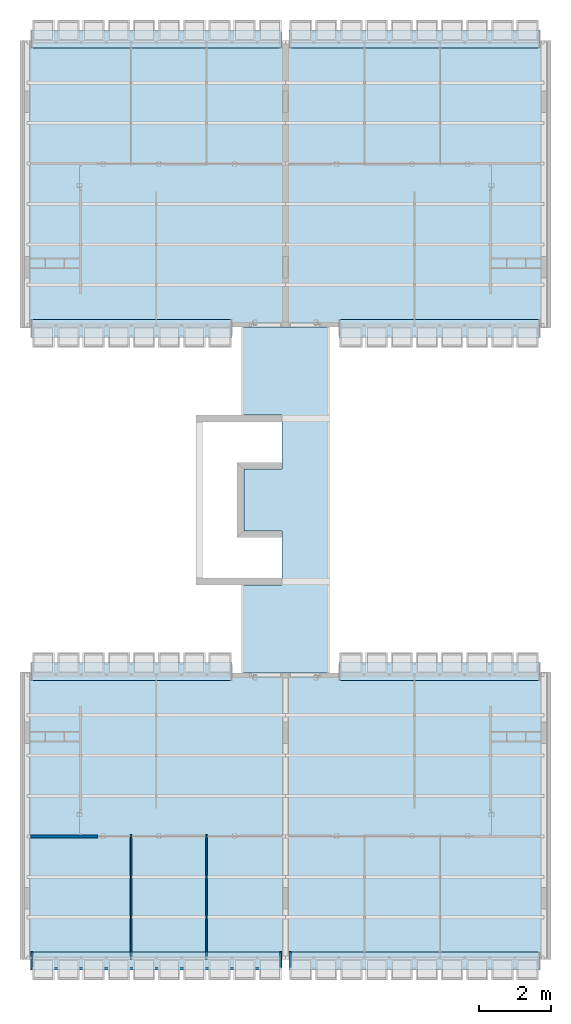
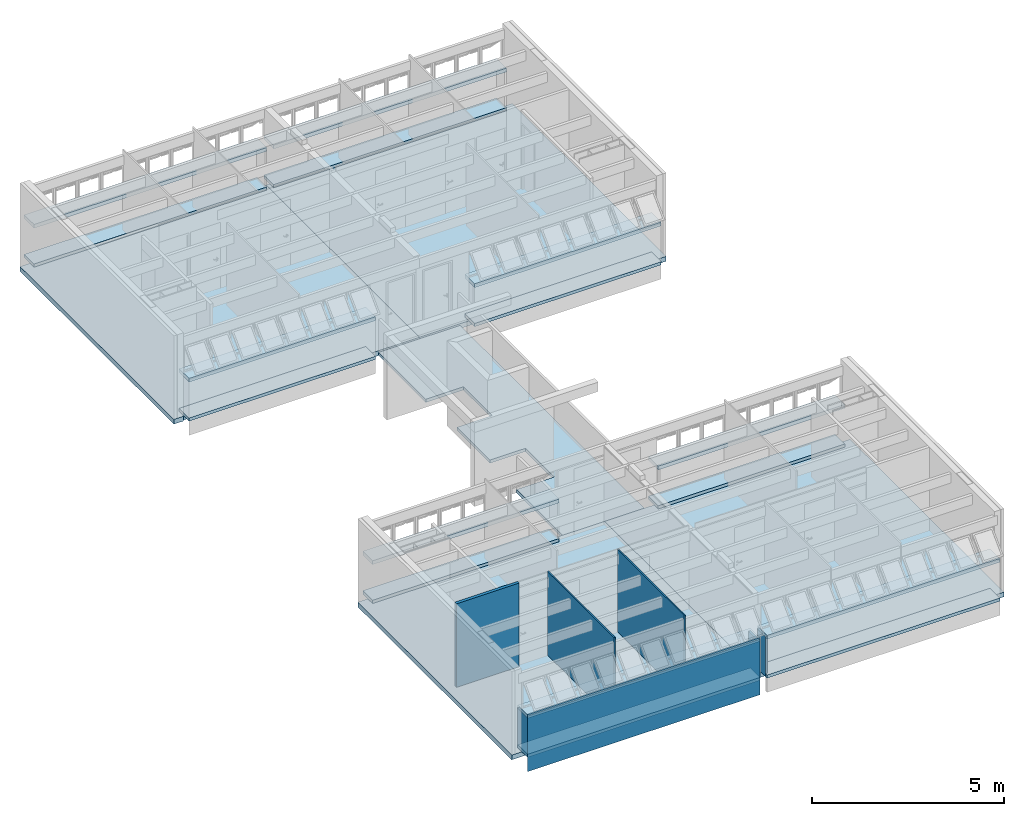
# One storey, part 4 of 37: 21 slabs, 7 walls.
"""IFC2X3 building model written with IfcOpenShell, lengths in millimetres."""

from ifc_helpers import new_model, entity, si_unit, converted_unit, derived_unit, money_unit, direction, frame, origin_with_axes, place, context, subcontext, project, spatial, polyline, outline, extrude, material, layer, layer_set, layer_usage, type_object, element, save


model = new_model("IFC2X3")

# Units and contexts
model_context = context("Model", 3, precision=0.01, world=origin_with_axes(), true_north=direction((0.0, 1.0)))
body_context = subcontext(model_context, "Body", "Model", "MODEL_VIEW")
ifc_project = project(units=[si_unit("LENGTHUNIT", "METRE", prefix="MILLI"), si_unit("AREAUNIT", "SQUARE_METRE"), si_unit("VOLUMEUNIT", "CUBIC_METRE"), converted_unit("PLANEANGLEUNIT", "DEGREE", entity("IfcPlaneAngleMeasure", 0.0174532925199), si_unit("PLANEANGLEUNIT", "RADIAN"), dimensions=[0, 0, 0, 0, 0, 0, 0]), money_unit("USD"), converted_unit("TIMEUNIT", "Year", entity("IfcTimeMeasure", 31556926.0), si_unit("TIMEUNIT", "SECOND"), dimensions=[0, 0, 1, 0, 0, 0, 0]), si_unit("MASSUNIT", "GRAM", prefix="KILO"), si_unit("THERMODYNAMICTEMPERATUREUNIT", "DEGREE_CELSIUS"), si_unit("LUMINOUSINTENSITYUNIT", "LUMEN"), si_unit("ENERGYUNIT", "JOULE", prefix="MEGA"), derived_unit("THERMALCONDUCTANCEUNIT", [(si_unit("POWERUNIT", "WATT"), 1), (si_unit("LENGTHUNIT", "METRE"), -1), (si_unit("THERMODYNAMICTEMPERATUREUNIT", "KELVIN"), -1)]), derived_unit("SPECIFICHEATCAPACITYUNIT", [(si_unit("ENERGYUNIT", "JOULE"), 1), (si_unit("MASSUNIT", "GRAM", prefix="KILO"), -1), (si_unit("THERMODYNAMICTEMPERATUREUNIT", "KELVIN"), -1)]), derived_unit("MASSDENSITYUNIT", [(si_unit("MASSUNIT", "GRAM", prefix="KILO"), 1), (si_unit("VOLUMEUNIT", "CUBIC_METRE"), -1)])], contexts=[model_context])

# Site, building, storey
site_placement = place(None, origin_with_axes())
site = spatial("IfcSite", under=ifc_project, at=site_placement, Name="Local", CompositionType="ELEMENT")
building_placement = place(site_placement, origin_with_axes())
building = spatial("IfcBuilding", under=site, at=building_placement, Name="Construção", CompositionType="ELEMENT")
storey_placement = place(building_placement, frame((0.0, 0.0, 5300.0), z_axis=(0.0, 0.0, 1.0), x_axis=(1.0, 0.0, 0.0)))
storey = spatial("IfcBuildingStorey", under=building, at=storey_placement, Name="Terceiro Pavimento", CompositionType="ELEMENT", Elevation=5300.0)

# Slabs
ifc_material_1 = material(Name="Concreto Armado Moldado in Loco - Estrutural")
ifc_layer_1 = layer(ifc_material_1, 150.0, ventilated="UNKNOWN")
ifc_layer_set_1 = layer_set([ifc_layer_1], Name="Concreto Armado Moldado in Loco - Estrutural 150")
ifc_layer_usage_1 = layer_usage(ifc_layer_set_1, "AXIS3", "NEGATIVE", 150.0)
slab_type_1 = type_object("IfcSlabType", Name="Concreto Armado Moldado in Loco - Estrutural 150", PredefinedType="FLOOR")
slab_1_placement = place(storey_placement, frame((0.0, 300.0, 0.0), z_axis=(0.0, 0.0, 1.0), x_axis=(1.0, 0.0, 0.0)))
element("IfcSlab", 1, at=slab_1_placement, inside=storey, type_object=slab_type_1, material=ifc_layer_usage_1, Name="APTO9-LAJE-000", PredefinedType="FLOOR", context=body_context, shape_type="SweptSolid", body=[
    extrude(outline(polyline([(0.0, 0.0), (299.999978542, 0.0), (7385.0, 0.0), (7385.0, 7964.99999866), (6160.00008404, 7964.99999866), (5900.0, 7965.0), (290.0, 7965.0), (289.999999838, 8000.00000006), (0.0, 7999.99999872), (0.0, 0.0)])), frame((0.0, 0.0, -150.0), z_axis=(0.0, 0.0, 1.0), x_axis=(1.0, 0.0, 0.0)), (0.0, 0.0, 1.0), 150.0),
])
ifc_layer_usage_2 = layer_usage(ifc_layer_set_1, "AXIS3", "NEGATIVE", 150.0)
slab_2_placement = place(storey_placement, frame((14770.0, 300.0, 0.0), z_axis=(0.0, 0.0, 1.0), x_axis=(1.0, 0.0, 0.0)))
element("IfcSlab", 2, at=slab_2_placement, inside=storey, type_object=slab_type_1, material=ifc_layer_usage_2, Name="APTO10-LAJE-000", PredefinedType="FLOOR", context=body_context, shape_type="SweptSolid", body=[
    extrude(outline(polyline([(0.0, 0.0), (0.0, 7999.99999872), (-289.999999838, 8000.00000006), (-290.0, 7965.0), (-5900.0, 7965.0), (-6160.00008404, 7964.99999866), (-7385.0, 7964.99999866), (-7385.0, 0.0), (-299.999978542, 0.0), (0.0, 0.0)])), frame((0.0, 0.0, -150.0), z_axis=(0.0, 0.0, 1.0), x_axis=(1.0, 0.0, 0.0)), (0.0, 0.0, 1.0), 150.0),
])
ifc_layer_usage_3 = layer_usage(ifc_layer_set_1, "AXIS3", "NEGATIVE", 150.0)
slab_3_placement = place(storey_placement, frame((0.0, 25860.0, 0.0), z_axis=(0.0, 0.0, 1.0), x_axis=(1.0, 0.0, 0.0)))
element("IfcSlab", 3, at=slab_3_placement, inside=storey, type_object=slab_type_1, material=ifc_layer_usage_3, Name="APTO11-LAJE-000", PredefinedType="FLOOR", context=body_context, shape_type="SweptSolid", body=[
    extrude(outline(polyline([(0.0, 0.0), (0.0, -7999.99999872), (289.999999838, -8000.00000006), (290.0, -7965.0), (5900.0, -7965.0), (6160.00008404, -7964.99999866), (7385.0, -7964.99999866), (7385.0, 0.0), (299.999978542, 0.0), (0.0, 0.0)])), frame((0.0, 0.0, -150.0), z_axis=(0.0, 0.0, 1.0), x_axis=(1.0, 0.0, 0.0)), (0.0, 0.0, 1.0), 150.0),
])
ifc_layer_usage_4 = layer_usage(ifc_layer_set_1, "AXIS3", "NEGATIVE", 150.0)
slab_4_placement = place(storey_placement, frame((14770.0, 25860.0, 0.0), z_axis=(0.0, 0.0, 1.0), x_axis=(1.0, 0.0, 0.0)))
element("IfcSlab", 4, at=slab_4_placement, inside=storey, type_object=slab_type_1, material=ifc_layer_usage_4, Name="APTO12-LAJE-000", PredefinedType="FLOOR", context=body_context, shape_type="SweptSolid", body=[
    extrude(outline(polyline([(0.0, 0.0), (-299.999978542, 0.0), (-7385.0, 0.0), (-7385.0, -7964.99999866), (-6160.00008404, -7964.99999866), (-5900.0, -7965.0), (-290.0, -7965.0), (-289.999999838, -8000.00000006), (0.0, -7999.99999872), (0.0, 0.0)])), frame((0.0, 0.0, -150.0), z_axis=(0.0, 0.0, 1.0), x_axis=(1.0, 0.0, 0.0)), (0.0, 0.0, 1.0), 150.0),
])
ifc_layer_2 = layer(ifc_material_1, 120.0, ventilated="UNKNOWN")
ifc_layer_set_2 = layer_set([ifc_layer_2], Name="Concreto Armado Moldado in Loco - Estrutural 120")
ifc_layer_usage_5 = layer_usage(ifc_layer_set_2, "AXIS3", "NEGATIVE", 120.0)
slab_type_2 = type_object("IfcSlabType", Name="Concreto Armado Moldado in Loco - Estrutural 120", PredefinedType="FLOOR")
slab_5_placement = place(storey_placement, frame((300.0, 8564.99999866, 1355.0), z_axis=(0.0, 0.0, 1.0), x_axis=(1.0, 0.0, 0.0)))
element("IfcSlab", 5, at=slab_5_placement, inside=storey, type_object=slab_type_2, material=ifc_layer_usage_5, Name="APTO9-LAJE-003", PredefinedType="FLOOR", context=body_context, shape_type="SweptSolid", body=[
    extrude(outline(polyline([(0.0, 0.0), (0.0, -510.0), (5600.0, -510.0), (5600.0, 0.0), (0.0, 0.0)])), frame((0.0, 0.0, -120.0), z_axis=(0.0, 0.0, 1.0), x_axis=(1.0, 0.0, 0.0)), (0.0, 0.0, 1.0), 120.0),
])
ifc_layer_usage_6 = layer_usage(ifc_layer_set_2, "AXIS3", "NEGATIVE", 120.0)
slab_6_placement = place(storey_placement, frame((300.0, 0.0, 1355.0), z_axis=(0.0, 0.0, 1.0), x_axis=(1.0, 0.0, 0.0)))
element("IfcSlab", 6, at=slab_6_placement, inside=storey, type_object=slab_type_2, material=ifc_layer_usage_6, Name="APTO9-LAJE-002", PredefinedType="FLOOR", context=body_context, shape_type="SweptSolid", body=[
    extrude(outline(polyline([(0.0, 0.0), (6980.0, 0.0), (6980.0, 510.0), (0.0, 510.0), (0.0, 0.0)])), frame((0.0, 0.0, -120.0), z_axis=(0.0, 0.0, 1.0), x_axis=(1.0, 0.0, 0.0)), (0.0, 0.0, 1.0), 120.0),
])
ifc_layer_usage_7 = layer_usage(ifc_layer_set_2, "AXIS3", "NEGATIVE", 120.0)
slab_7_placement = place(storey_placement, frame((14470.0, 8564.99999866, 1355.0), z_axis=(0.0, 0.0, 1.0), x_axis=(1.0, 0.0, 0.0)))
element("IfcSlab", 7, at=slab_7_placement, inside=storey, type_object=slab_type_2, material=ifc_layer_usage_7, Name="APTO10-LAJE-003", PredefinedType="FLOOR", context=body_context, shape_type="SweptSolid", body=[
    extrude(outline(polyline([(0.0, 0.0), (-5600.0, 0.0), (-5600.0, -510.0), (0.0, -510.0), (0.0, 0.0)])), frame((0.0, 0.0, -120.0), z_axis=(0.0, 0.0, 1.0), x_axis=(1.0, 0.0, 0.0)), (0.0, 0.0, 1.0), 120.0),
])
ifc_layer_usage_8 = layer_usage(ifc_layer_set_2, "AXIS3", "NEGATIVE", 120.0)
slab_8_placement = place(storey_placement, frame((14470.0, 0.0, 1355.0), z_axis=(0.0, 0.0, 1.0), x_axis=(1.0, 0.0, 0.0)))
element("IfcSlab", 8, at=slab_8_placement, inside=storey, type_object=slab_type_2, material=ifc_layer_usage_8, Name="APTO10-LAJE-002", PredefinedType="FLOOR", context=body_context, shape_type="SweptSolid", body=[
    extrude(outline(polyline([(0.0, 0.0), (0.0, 510.0), (-6980.0, 510.0), (-6980.0, 0.0), (0.0, 0.0)])), frame((0.0, 0.0, -120.0), z_axis=(0.0, 0.0, 1.0), x_axis=(1.0, 0.0, 0.0)), (0.0, 0.0, 1.0), 120.0),
])
ifc_layer_usage_9 = layer_usage(ifc_layer_set_2, "AXIS3", "NEGATIVE", 120.0)
slab_9_placement = place(storey_placement, frame((300.0, 17595.0000013, 1355.0), z_axis=(0.0, 0.0, 1.0), x_axis=(1.0, 0.0, 0.0)))
element("IfcSlab", 9, at=slab_9_placement, inside=storey, type_object=slab_type_2, material=ifc_layer_usage_9, Name="APTO11-LAJE-003", PredefinedType="FLOOR", context=body_context, shape_type="SweptSolid", body=[
    extrude(outline(polyline([(0.0, 0.0), (5600.0, 0.0), (5600.0, 510.0), (0.0, 510.0), (0.0, 0.0)])), frame((0.0, 0.0, -120.0), z_axis=(0.0, 0.0, 1.0), x_axis=(1.0, 0.0, 0.0)), (0.0, 0.0, 1.0), 120.0),
])
ifc_layer_usage_10 = layer_usage(ifc_layer_set_2, "AXIS3", "NEGATIVE", 120.0)
slab_10_placement = place(storey_placement, frame((300.0, 26160.0, 1355.0), z_axis=(0.0, 0.0, 1.0), x_axis=(1.0, 0.0, 0.0)))
element("IfcSlab", 10, at=slab_10_placement, inside=storey, type_object=slab_type_2, material=ifc_layer_usage_10, Name="APTO11-LAJE-002", PredefinedType="FLOOR", context=body_context, shape_type="SweptSolid", body=[
    extrude(outline(polyline([(0.0, 0.0), (0.0, -510.0), (6980.0, -510.0), (6980.0, 0.0), (0.0, 0.0)])), frame((0.0, 0.0, -120.0), z_axis=(0.0, 0.0, 1.0), x_axis=(1.0, 0.0, 0.0)), (0.0, 0.0, 1.0), 120.0),
])
ifc_layer_usage_11 = layer_usage(ifc_layer_set_2, "AXIS3", "NEGATIVE", 120.0)
slab_11_placement = place(storey_placement, frame((14470.0, 17595.0000013, 1355.0), z_axis=(0.0, 0.0, 1.0), x_axis=(1.0, 0.0, 0.0)))
element("IfcSlab", 11, at=slab_11_placement, inside=storey, type_object=slab_type_2, material=ifc_layer_usage_11, Name="APTO12-LAJE-003", PredefinedType="FLOOR", context=body_context, shape_type="SweptSolid", body=[
    extrude(outline(polyline([(0.0, 0.0), (0.0, 510.0), (-5600.0, 510.0), (-5600.0, 0.0), (0.0, 0.0)])), frame((0.0, 0.0, -120.0), z_axis=(0.0, 0.0, 1.0), x_axis=(1.0, 0.0, 0.0)), (0.0, 0.0, 1.0), 120.0),
])
ifc_layer_usage_12 = layer_usage(ifc_layer_set_2, "AXIS3", "NEGATIVE", 120.0)
slab_12_placement = place(storey_placement, frame((14470.0, 26160.0, 1355.0), z_axis=(0.0, 0.0, 1.0), x_axis=(1.0, 0.0, 0.0)))
element("IfcSlab", 12, at=slab_12_placement, inside=storey, type_object=slab_type_2, material=ifc_layer_usage_12, Name="APTO12-LAJE-002", PredefinedType="FLOOR", context=body_context, shape_type="SweptSolid", body=[
    extrude(outline(polyline([(0.0, 0.0), (-6980.0, 0.0), (-6980.0, -510.0), (0.0, -510.0), (0.0, 0.0)])), frame((0.0, 0.0, -120.0), z_axis=(0.0, 0.0, 1.0), x_axis=(1.0, 0.0, 0.0)), (0.0, 0.0, 1.0), 120.0),
])
ifc_layer_3 = layer(ifc_material_1, 100.0, ventilated="UNKNOWN")
ifc_layer_set_3 = layer_set([ifc_layer_3], Name="Concreto Armado Moldado in Loco - Estrutural 100")
ifc_layer_usage_13 = layer_usage(ifc_layer_set_3, "AXIS3", "NEGATIVE", 100.0)
slab_type_3 = type_object("IfcSlabType", Name="Concreto Armado Moldado in Loco - Estrutural 100", PredefinedType="FLOOR")
slab_13_placement = place(storey_placement, frame((6229.99993205, 13940.0000635, -150.0), z_axis=(0.0, 0.0, 1.0), x_axis=(1.0, 0.0, 0.0)))
element("IfcSlab", 13, at=slab_13_placement, inside=storey, type_object=slab_type_3, material=ifc_layer_usage_13, Name="CIRC3-LAJE-008", PredefinedType="FLOOR", context=body_context, shape_type="SweptSolid", body=[
    extrude(outline(polyline([(0.0, 0.0), (0.0, -1720.00012696), (1060.0001283, -1720.00012696), (1060.0001283, -3220.00011086), (-69.9999320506, -3220.00011086), (-69.9999320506, -5675.00006348), (2380.00006795, -5675.00006348), (2380.00006795, 3954.99993652), (-69.9999320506, 3954.99993652), (-69.9999320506, 1499.99998391), (1060.0001283, 1499.99998391), (1060.0001283, 1309.99988645), (1060.0001283, 0.0), (0.0, 0.0)])), origin_with_axes(), (0.0, 0.0, 1.0), 100.0),
])
ifc_layer_usage_14 = layer_usage(ifc_layer_set_3, "AXIS3", "NEGATIVE", 100.0)
slab_14_placement = place(storey_placement, frame((300.0, 0.0, 100.0), z_axis=(0.0, 0.0, 1.0), x_axis=(1.0, 0.0, 0.0)))
element("IfcSlab", 14, at=slab_14_placement, inside=storey, type_object=slab_type_3, material=ifc_layer_usage_14, Name="APTO9-LAJE-001", PredefinedType="FLOOR", context=body_context, shape_type="SweptSolid", body=[
    extrude(outline(polyline([(0.0, 0.0), (6980.0, 0.0), (6980.0, 510.0), (0.0, 510.0), (0.0, 0.0)])), frame((0.0, 0.0, -100.0), z_axis=(0.0, 0.0, 1.0), x_axis=(1.0, 0.0, 0.0)), (0.0, 0.0, 1.0), 100.0),
])
ifc_layer_usage_15 = layer_usage(ifc_layer_set_3, "AXIS3", "NEGATIVE", 100.0)
slab_15_placement = place(storey_placement, frame((300.0, 8564.99999866, 100.0), z_axis=(0.0, 0.0, 1.0), x_axis=(1.0, 0.0, 0.0)))
element("IfcSlab", 15, at=slab_15_placement, inside=storey, type_object=slab_type_3, material=ifc_layer_usage_15, Name="APTO9-LAJE-004", PredefinedType="FLOOR", context=body_context, shape_type="SweptSolid", body=[
    extrude(outline(polyline([(0.0, 0.0), (0.0, -510.0), (5600.0, -510.0), (5600.0, 0.0), (0.0, 0.0)])), frame((0.0, 0.0, -100.0), z_axis=(0.0, 0.0, 1.0), x_axis=(1.0, 0.0, 0.0)), (0.0, 0.0, 1.0), 100.0),
])
ifc_layer_usage_16 = layer_usage(ifc_layer_set_3, "AXIS3", "NEGATIVE", 100.0)
slab_16_placement = place(storey_placement, frame((14470.0, 0.0, 100.0), z_axis=(0.0, 0.0, 1.0), x_axis=(1.0, 0.0, 0.0)))
element("IfcSlab", 16, at=slab_16_placement, inside=storey, type_object=slab_type_3, material=ifc_layer_usage_16, Name="APTO10-LAJE-001", PredefinedType="FLOOR", context=body_context, shape_type="SweptSolid", body=[
    extrude(outline(polyline([(0.0, 0.0), (0.0, 510.0), (-6980.0, 510.0), (-6980.0, 0.0), (0.0, 0.0)])), frame((0.0, 0.0, -100.0), z_axis=(0.0, 0.0, 1.0), x_axis=(1.0, 0.0, 0.0)), (0.0, 0.0, 1.0), 100.0),
])
ifc_layer_usage_17 = layer_usage(ifc_layer_set_3, "AXIS3", "NEGATIVE", 100.0)
slab_17_placement = place(storey_placement, frame((14470.0, 8564.99999866, 100.0), z_axis=(0.0, 0.0, 1.0), x_axis=(1.0, 0.0, 0.0)))
element("IfcSlab", 17, at=slab_17_placement, inside=storey, type_object=slab_type_3, material=ifc_layer_usage_17, Name="APTO10-LAJE-004", PredefinedType="FLOOR", context=body_context, shape_type="SweptSolid", body=[
    extrude(outline(polyline([(0.0, 0.0), (-5600.0, 0.0), (-5600.0, -510.0), (0.0, -510.0), (0.0, 0.0)])), frame((0.0, 0.0, -100.0), z_axis=(0.0, 0.0, 1.0), x_axis=(1.0, 0.0, 0.0)), (0.0, 0.0, 1.0), 100.0),
])
ifc_layer_usage_18 = layer_usage(ifc_layer_set_3, "AXIS3", "NEGATIVE", 100.0)
slab_18_placement = place(storey_placement, frame((300.0, 26160.0, 100.0), z_axis=(0.0, 0.0, 1.0), x_axis=(1.0, 0.0, 0.0)))
element("IfcSlab", 18, at=slab_18_placement, inside=storey, type_object=slab_type_3, material=ifc_layer_usage_18, Name="APTO11-LAJE-001", PredefinedType="FLOOR", context=body_context, shape_type="SweptSolid", body=[
    extrude(outline(polyline([(0.0, 0.0), (0.0, -510.0), (6980.0, -510.0), (6980.0, 0.0), (0.0, 0.0)])), frame((0.0, 0.0, -100.0), z_axis=(0.0, 0.0, 1.0), x_axis=(1.0, 0.0, 0.0)), (0.0, 0.0, 1.0), 100.0),
])
ifc_layer_usage_19 = layer_usage(ifc_layer_set_3, "AXIS3", "NEGATIVE", 100.0)
slab_19_placement = place(storey_placement, frame((300.0, 17595.0000013, 100.0), z_axis=(0.0, 0.0, 1.0), x_axis=(1.0, 0.0, 0.0)))
element("IfcSlab", 19, at=slab_19_placement, inside=storey, type_object=slab_type_3, material=ifc_layer_usage_19, Name="APTO11-LAJE-004", PredefinedType="FLOOR", context=body_context, shape_type="SweptSolid", body=[
    extrude(outline(polyline([(0.0, 0.0), (5600.0, 0.0), (5600.0, 510.0), (0.0, 510.0), (0.0, 0.0)])), frame((0.0, 0.0, -100.0), z_axis=(0.0, 0.0, 1.0), x_axis=(1.0, 0.0, 0.0)), (0.0, 0.0, 1.0), 100.0),
])
ifc_layer_usage_20 = layer_usage(ifc_layer_set_3, "AXIS3", "NEGATIVE", 100.0)
slab_20_placement = place(storey_placement, frame((14470.0, 26160.0, 100.0), z_axis=(0.0, 0.0, 1.0), x_axis=(1.0, 0.0, 0.0)))
element("IfcSlab", 20, at=slab_20_placement, inside=storey, type_object=slab_type_3, material=ifc_layer_usage_20, Name="APTO12-LAJE-001", PredefinedType="FLOOR", context=body_context, shape_type="SweptSolid", body=[
    extrude(outline(polyline([(0.0, 0.0), (-6980.0, 0.0), (-6980.0, -510.0), (0.0, -510.0), (0.0, 0.0)])), frame((0.0, 0.0, -100.0), z_axis=(0.0, 0.0, 1.0), x_axis=(1.0, 0.0, 0.0)), (0.0, 0.0, 1.0), 100.0),
])
ifc_layer_usage_21 = layer_usage(ifc_layer_set_3, "AXIS3", "NEGATIVE", 100.0)
slab_21_placement = place(storey_placement, frame((14470.0, 17595.0000013, 100.0), z_axis=(0.0, 0.0, 1.0), x_axis=(1.0, 0.0, 0.0)))
element("IfcSlab", 21, at=slab_21_placement, inside=storey, type_object=slab_type_3, material=ifc_layer_usage_21, Name="APTO12-LAJE-004", PredefinedType="FLOOR", context=body_context, shape_type="SweptSolid", body=[
    extrude(outline(polyline([(0.0, 0.0), (0.0, 510.0), (-5600.0, 510.0), (-5600.0, 0.0), (0.0, 0.0)])), frame((0.0, 0.0, -100.0), z_axis=(0.0, 0.0, 1.0), x_axis=(1.0, 0.0, 0.0)), (0.0, 0.0, 1.0), 100.0),
])

# Walls
ifc_material_2 = material(Name="GENÉRICO - VEDAÇÃO EXTERNA")
ifc_layer_4 = layer(ifc_material_2, 40.0, ventilated="UNKNOWN")
ifc_layer_set_4 = layer_set([ifc_layer_4], Name="GENÉRICO - VEDAÇÃO EXTERNA 40")
ifc_layer_usage_22 = layer_usage(ifc_layer_set_4, "AXIS2", "NEGATIVE", 0.0)
wall_type_1 = type_object("IfcWallType", Name="GENÉRICO - VEDAÇÃO EXTERNA 40", PredefinedType="NOTDEFINED")
wall_1_placement = place(storey_placement, frame((5210.0, 3765.0, 0.0), z_axis=(0.0, 0.0, 1.0), x_axis=(0.0, -1.0, 0.0)))
element("IfcWallStandardCase", 22, at=wall_1_placement, inside=storey, type_object=wall_type_1, material=ifc_layer_usage_22, Name="APTO9-PAREDE-005", context=body_context, shape_type="SweptSolid", body=[
    extrude(outline(polyline([(0.0, -40.0), (3465.0, -40.0), (3465.0, 0.0), (0.0, 0.0), (0.0, -40.0)])), origin_with_axes(), (0.0, 0.0, 1.0), 2620.0),
])
ifc_layer_usage_23 = layer_usage(ifc_layer_set_4, "AXIS2", "NEGATIVE", 0.0)
wall_2_placement = place(storey_placement, frame((3110.0, 3765.0, 0.0), z_axis=(0.0, 0.0, 1.0), x_axis=(0.0, -1.0, 0.0)))
element("IfcWallStandardCase", 23, at=wall_2_placement, inside=storey, type_object=wall_type_1, material=ifc_layer_usage_23, Name="APTO9-PAREDE-007", context=body_context, shape_type="SweptSolid", body=[
    extrude(outline(polyline([(0.0, -40.0), (3465.0, -40.0), (3465.0, 0.0), (0.0, 0.0), (0.0, -40.0)])), origin_with_axes(), (0.0, 0.0, 1.0), 2650.0),
])
ifc_layer_5 = layer(ifc_material_2, 90.0, ventilated="UNKNOWN")
ifc_layer_set_5 = layer_set([ifc_layer_5], Name="GENÉRICO - VEDAÇÃO EXTERNA 90")
ifc_layer_usage_24 = layer_usage(ifc_layer_set_5, "AXIS2", "NEGATIVE", 0.0)
wall_type_2 = type_object("IfcWallType", Name="GENÉRICO - VEDAÇÃO EXTERNA 90", PredefinedType="NOTDEFINED")
wall_3_placement = place(storey_placement, frame((290.0, 3765.2195667, 0.0), z_axis=(0.0, 0.0, 1.0), x_axis=(1.0, 0.0, 0.0)))
element("IfcWallStandardCase", 24, at=wall_3_placement, inside=storey, type_object=wall_type_2, material=ifc_layer_usage_24, Name="APTO9-PAREDE-019", context=body_context, shape_type="SweptSolid", body=[
    extrude(outline(polyline([(0.0, -90.0), (1879.99807021, -90.0), (1880.0, 0.0), (0.0, 0.0), (0.0, -90.0)])), origin_with_axes(), (0.0, 0.0, 1.0), 2650.0),
])
ifc_layer_6 = layer(ifc_material_1, 50.0, ventilated="UNKNOWN")
ifc_layer_set_6 = layer_set([ifc_layer_6], Name="Concreto Armado Moldado in Loco - Estrutural 50")
ifc_layer_usage_25 = layer_usage(ifc_layer_set_6, "AXIS2", "NEGATIVE", 50.0)
wall_type_3 = type_object("IfcWallType", Name="Concreto Armado Moldado in Loco - Estrutural 50", PredefinedType="NOTDEFINED")
wall_4_placement = place(storey_placement, frame((300.0, 510.0, 0.0), z_axis=(0.0, 0.0, 1.0), x_axis=(0.0, -1.0, 0.0)))
element("IfcWallStandardCase", 25, at=wall_4_placement, inside=storey, type_object=wall_type_3, material=ifc_layer_usage_25, Name="APTO9-PAREDE-002", context=body_context, shape_type="SweptSolid", body=[
    extrude(outline(polyline([(0.0, 0.0), (510.0, 0.0), (430.0, 50.0), (0.0, 50.0), (0.0, 0.0)])), origin_with_axes(), (0.0, 0.0, 1.0), 1270.0),
])
ifc_layer_usage_26 = layer_usage(ifc_layer_set_6, "AXIS2", "NEGATIVE", 50.0)
wall_5_placement = place(storey_placement, frame((7230.0, 510.0, 0.0), z_axis=(0.0, 0.0, 1.0), x_axis=(0.0, -1.0, 0.0)))
element("IfcWallStandardCase", 26, at=wall_5_placement, inside=storey, type_object=wall_type_3, material=ifc_layer_usage_26, Name="APTO9-PAREDE-001", context=body_context, shape_type="SweptSolid", body=[
    extrude(outline(polyline([(0.0, 0.0), (435.0, 0.0), (435.0, 50.0), (0.0, 50.0), (0.0, 0.0)])), origin_with_axes(), (0.0, 0.0, 1.0), 1270.0),
])
ifc_layer_usage_27 = layer_usage(ifc_layer_set_6, "AXIS2", "POSITIVE", -50.0)
wall_6_placement = place(storey_placement, frame((7540.0, 510.0, 0.0), z_axis=(0.0, 0.0, 1.0), x_axis=(0.0, -1.0, 0.0)))
element("IfcWallStandardCase", 27, at=wall_6_placement, inside=storey, type_object=wall_type_3, material=ifc_layer_usage_27, Name="APTO10-PAREDE-001", context=body_context, shape_type="SweptSolid", body=[
    extrude(outline(polyline([(0.0, -50.0), (435.0, -50.0), (435.0, 0.0), (0.0, 0.0), (0.0, -50.0)])), origin_with_axes(), (0.0, 0.0, 1.0), 1270.0),
])
ifc_layer_7 = layer(ifc_material_1, 80.0, ventilated="UNKNOWN")
ifc_layer_set_7 = layer_set([ifc_layer_7], Name="Concreto Armado Moldado in Loco - Estrutural 80")
ifc_layer_usage_28 = layer_usage(ifc_layer_set_7, "AXIS2", "POSITIVE", -80.0)
wall_type_4 = type_object("IfcWallType", Name="Concreto Armado Moldado in Loco - Estrutural 80", PredefinedType="NOTDEFINED")
wall_7_placement = place(storey_placement, frame((300.0, 80.0, -450.0), z_axis=(0.0, 0.0, 1.0), x_axis=(1.0, 0.0, 0.0)))
element("IfcWallStandardCase", 28, at=wall_7_placement, inside=storey, type_object=wall_type_4, material=ifc_layer_usage_28, Name="APTO9-PAREDE-015", context=body_context, shape_type="SweptSolid", body=[
    extrude(outline(polyline([(0.0, -80.0), (6980.0, -80.0), (6980.0, 0.0), (50.0, 0.0), (0.0, -80.0)])), origin_with_axes(), (0.0, 0.0, 1.0), 1765.0),
])

save(model, "model.ifc")
